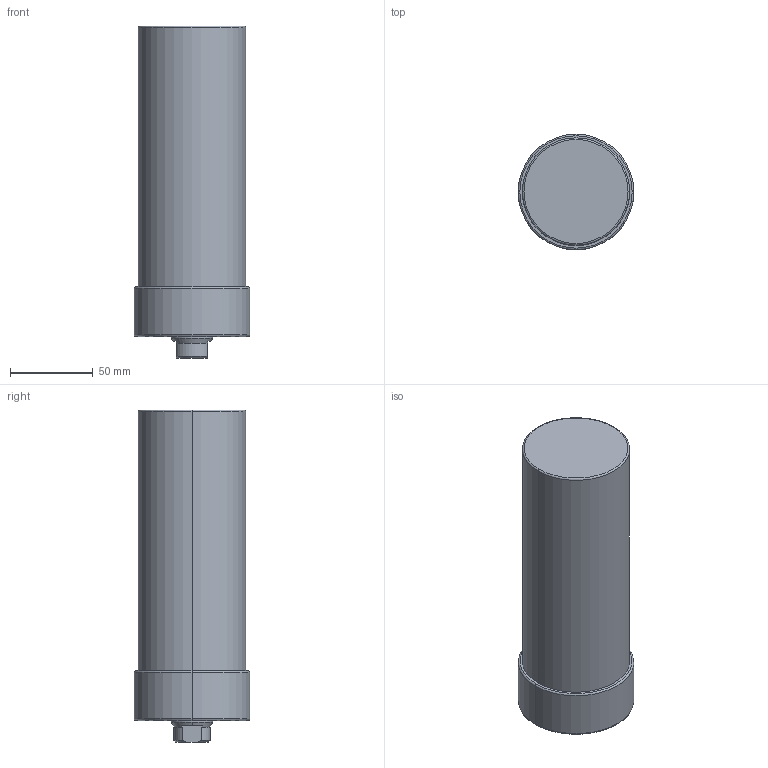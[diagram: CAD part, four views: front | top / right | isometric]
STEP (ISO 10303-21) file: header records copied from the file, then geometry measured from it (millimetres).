
FILE_DESCRIPTION (( 'STEP AP203' ), '1' );
FILE_NAME ('CLLU-065GA-125.STEP', '2020-01-07T00:13:05', ( '' ), ( '' ), 'SwSTEP 2.0', 'SolidWorks 2015', '' );
FILE_SCHEMA (( 'CONFIG_CONTROL_DESIGN' ));
Length unit declared in the file: millimetre
Products named in the file (1): CLLU-065GA-125
Bounding box: 70 x 70 x 201 mm (x, y, z)
Volume: 640180.4 mm3; surface area: 49288.8 mm2
Topology: 1 solids, 1 shells, 62 faces, 140 edges, 79 vertices
Faces by surface type: cone 24, cylinder 22, plane 10, torus 6
Entity records: 1751 total; most frequent: DIRECTION 320, CARTESIAN_POINT 300, ORIENTED_EDGE 260, AXIS2_PLACEMENT_3D 135, EDGE_CURVE 130, VERTEX_POINT 79, CIRCLE 72, EDGE_LOOP 71
